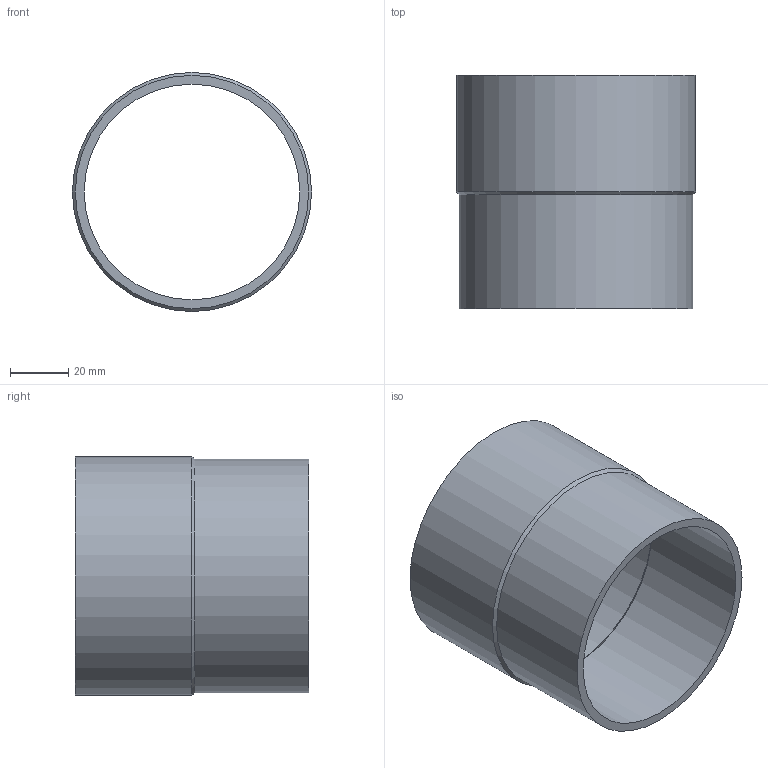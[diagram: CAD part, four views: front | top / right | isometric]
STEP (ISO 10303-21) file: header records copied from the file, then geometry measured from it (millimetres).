
FILE_DESCRIPTION(/* description */ ('Adapter'),/* implementation_level */ '2;1');
FILE_NAME(/* name */ 'P:\Adapter\Schweißstutzen und Schweißadapter\A 80a_76i.stp',/* time_stamp */ '2019-04-01T13:18:00+02:00',/* author */ ('neufeld'),/* organization */ (''),/* preprocessor_version */ 'ST-DEVELOPER v17',/* originating_system */ 'Autodesk Inventor 2019',/* authorisation */ '');
FILE_SCHEMA (('AUTOMOTIVE_DESIGN { 1 0 10303 214 3 1 1 }'));
Length unit declared in the file: millimetre
Products named in the file (1): A 80a/76i
Bounding box: 82 x 80 x 82 mm (x, y, z)
Volume: 56949.2 mm3; surface area: 40900.4 mm2
Topology: 1 solids, 1 shells, 8 faces, 22 edges, 16 vertices
Faces by surface type: cylinder 4, cone 2, plane 2
Full cylindrical faces by diameter (mm): 74 x1, 76.5 x1, 80 x1, 82 x1
Entity records: 317 total; most frequent: DIRECTION 56, CARTESIAN_POINT 47, ORIENTED_EDGE 44, AXIS2_PLACEMENT_3D 25, EDGE_CURVE 22, CIRCLE 16, VERTEX_POINT 16, EDGE_LOOP 10
